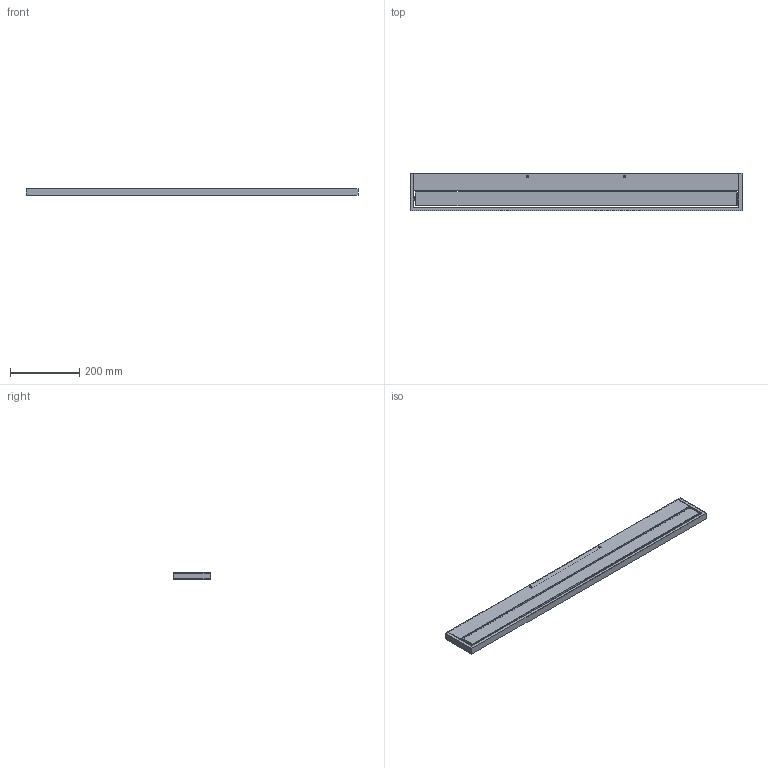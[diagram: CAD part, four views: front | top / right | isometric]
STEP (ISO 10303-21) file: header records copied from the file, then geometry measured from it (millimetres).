
FILE_DESCRIPTION( ( 'Unknown' ), '1' );
FILE_NAME( 'U:/ARCHIVIO TECNICO/ARCHIVIO 3D/7605.stp', 'Unknown', ( 'Unknown' ), ( 'Unknown' ), 'PSStep 17.0.49', 'Unknown', ' ' );
FILE_SCHEMA( ( 'AUTOMOTIVE_DESIGN { 1 0 10303 214 1 1 1 1 }' ) );
Length unit declared in the file: millimetre
Products named in the file (10): 153000125995; 153000125995_01; 153000125995_02; Assem1; 061000113359; 156000035994; 151000607012; 210000044013; 155000307002; 064000026713
Assembly tree (12 placements, depth 3):
  Assem1
    061000113359  x2
    156000035994
    151000607012
    210000044013  x2
    155000307002  x2
    064000026713
    153000125995
      153000125995_01
      153000125995_02
Bounding box: 960 x 108 x 20 mm (x, y, z)
Volume: 624902 mm3; surface area: 660450.9 mm2
Topology: 11 solids, 11 shells, 353 faces, 890 edges, 540 vertices
Faces by surface type: plane 175, cylinder 117, torus 26, sphere 24, cone 11
Full cylindrical faces by diameter (mm): 2.459 x2, 3 x4, 3.242 x2, 4.5 x2, 5 x3, 6.917 x2, 8 x2, 9 x2, 12 x4
Entity records: 8804 total; most frequent: CARTESIAN_POINT 1319, DIRECTION 1168, ORIENTED_EDGE 1076, EDGE_CURVE 538, AXIS2_PLACEMENT_3D 397, LINE 374, VECTOR 374, VERTEX_POINT 352
